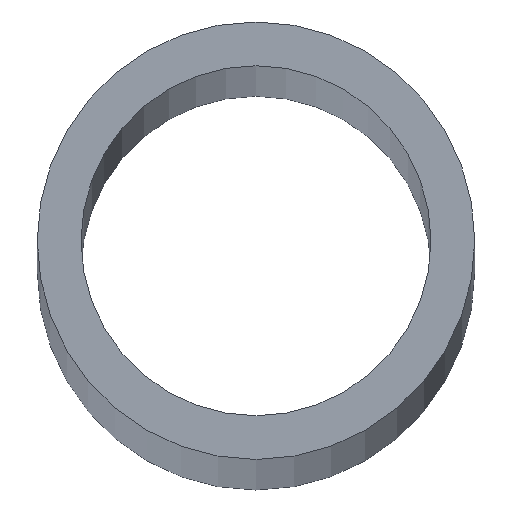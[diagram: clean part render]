
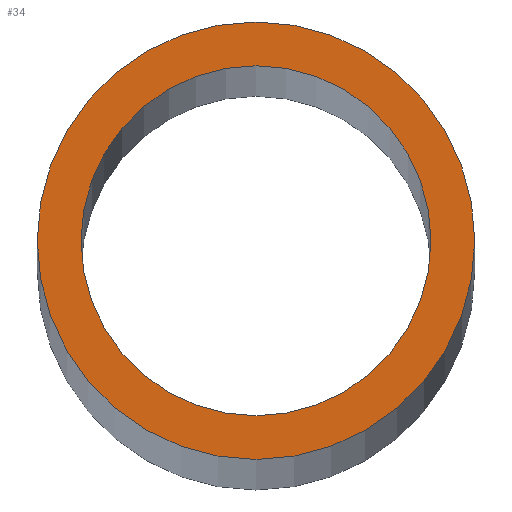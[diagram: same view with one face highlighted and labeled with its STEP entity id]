
A CAD part, top view. The second image highlights one B-rep face of the part: STEP entity #34.
In plain terms, the highlighted planar face has unit normal (0, 0, 1).
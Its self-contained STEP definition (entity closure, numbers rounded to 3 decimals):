
#1 = FACE_OUTER_BOUND ( 'NONE', #60, .T. ) ;
#6 = EDGE_LOOP ( 'NONE', ( #175, #53 ) ) ;
#16 = VERTEX_POINT ( 'NONE', #114 ) ;
#21 = VERTEX_POINT ( 'NONE', #134 ) ;
#24 = AXIS2_PLACEMENT_3D ( 'NONE', #73, #164, #71 ) ;
#29 = AXIS2_PLACEMENT_3D ( 'NONE', #180, #167, #202 ) ;
#30 = VERTEX_POINT ( 'NONE', #154 ) ;
#34 = ADVANCED_FACE ( 'NONE', ( #1, #208 ), #70, .T. ) ;
#40 = CARTESIAN_POINT ( 'NONE',  ( 0., 0., 1000. ) ) ;
#53 = ORIENTED_EDGE ( 'NONE', *, *, #100, .F. ) ;
#55 = CARTESIAN_POINT ( 'NONE',  ( 0., 0., 1000. ) ) ;
#60 = EDGE_LOOP ( 'NONE', ( #161, #141 ) ) ;
#63 = CIRCLE ( 'NONE', #205, 12.5 ) ;
#70 = PLANE ( 'NONE',  #171 ) ;
#71 = DIRECTION ( 'NONE',  ( 1., 0., 0. ) ) ;
#72 = DIRECTION ( 'NONE',  ( 1., 0., 0. ) ) ;
#73 = CARTESIAN_POINT ( 'NONE',  ( 0., 0., 1000. ) ) ;
#74 = DIRECTION ( 'NONE',  ( 1., 0., 0. ) ) ;
#82 = EDGE_CURVE ( 'NONE', #30, #21, #63, .T. ) ;
#100 = EDGE_CURVE ( 'NONE', #16, #162, #206, .T. ) ;
#114 = CARTESIAN_POINT ( 'NONE',  ( 10., 0., 1000. ) ) ;
#115 = AXIS2_PLACEMENT_3D ( 'NONE', #40, #159, #144 ) ;
#118 = CARTESIAN_POINT ( 'NONE',  ( 0., 0., 1000. ) ) ;
#133 = CIRCLE ( 'NONE', #115, 10. ) ;
#134 = CARTESIAN_POINT ( 'NONE',  ( -12.5, 0., 1000. ) ) ;
#141 = ORIENTED_EDGE ( 'NONE', *, *, #82, .T. ) ;
#142 = CIRCLE ( 'NONE', #29, 12.5 ) ;
#144 = DIRECTION ( 'NONE',  ( 1., 0., 0. ) ) ;
#154 = CARTESIAN_POINT ( 'NONE',  ( 12.5, 0., 1000. ) ) ;
#159 = DIRECTION ( 'NONE',  ( 0., 0., 1. ) ) ;
#161 = ORIENTED_EDGE ( 'NONE', *, *, #166, .T. ) ;
#162 = VERTEX_POINT ( 'NONE', #163 ) ;
#163 = CARTESIAN_POINT ( 'NONE',  ( -10., 0., 1000. ) ) ;
#164 = DIRECTION ( 'NONE',  ( 0., 0., 1. ) ) ;
#166 = EDGE_CURVE ( 'NONE', #21, #30, #142, .T. ) ;
#167 = DIRECTION ( 'NONE',  ( 0., 0., 1. ) ) ;
#171 = AXIS2_PLACEMENT_3D ( 'NONE', #118, #182, #72 ) ;
#175 = ORIENTED_EDGE ( 'NONE', *, *, #214, .F. ) ;
#180 = CARTESIAN_POINT ( 'NONE',  ( 0., 0., 1000. ) ) ;
#182 = DIRECTION ( 'NONE',  ( 0., 0., 1. ) ) ;
#188 = DIRECTION ( 'NONE',  ( 0., 0., 1. ) ) ;
#202 = DIRECTION ( 'NONE',  ( 1., 0., 0. ) ) ;
#205 = AXIS2_PLACEMENT_3D ( 'NONE', #55, #188, #74 ) ;
#206 = CIRCLE ( 'NONE', #24, 10. ) ;
#208 = FACE_BOUND ( 'NONE', #6, .T. ) ;
#214 = EDGE_CURVE ( 'NONE', #162, #16, #133, .T. ) ;
